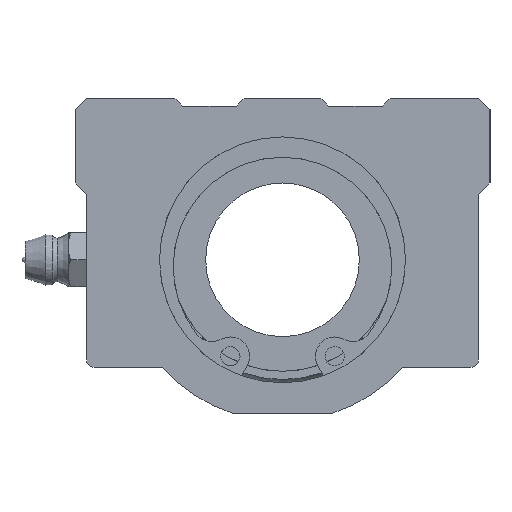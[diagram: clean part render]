
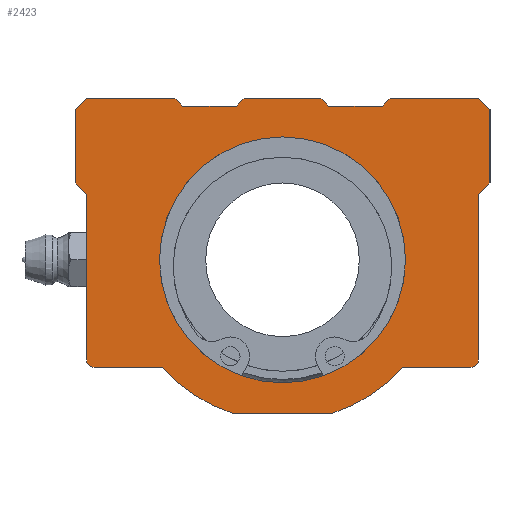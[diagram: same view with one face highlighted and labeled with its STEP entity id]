
A CAD part, left-side view. The second image highlights one B-rep face of the part: STEP entity #2423.
In plain terms, the highlighted planar face has unit normal (-1, 0, 0).
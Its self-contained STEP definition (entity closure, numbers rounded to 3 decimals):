
#1525=CARTESIAN_POINT('',(0.0,16.0,0.));
#1526=VERTEX_POINT('',#1525);
#1527=CARTESIAN_POINT('',(0.0,0.0,0.0));
#1528=DIRECTION('',(1.0,0.0,0.0));
#1529=DIRECTION('',(0.0,-1.0,0.0));
#1530=AXIS2_PLACEMENT_3D('',#1527,#1528,#1529);
#1531=CIRCLE('',#1530,16.0);
#1532=EDGE_CURVE('',#1526,#1526,#1531,.T.);
#1749=CARTESIAN_POINT('',(0.0,27.0,19.5));
#1750=VERTEX_POINT('',#1749);
#1765=CARTESIAN_POINT('',(0.0,27.0,10.));
#1766=VERTEX_POINT('',#1765);
#1773=CARTESIAN_POINT('',(0.0,27.0,10.));
#1774=DIRECTION('',(0.0,0.0,1.0));
#1775=VECTOR('',#1774,9.5);
#1776=LINE('',#1773,#1775);
#1777=EDGE_CURVE('',#1766,#1750,#1776,.T.);
#1787=CARTESIAN_POINT('',(0.0,25.5,-13.));
#1788=VERTEX_POINT('',#1787);
#1797=CARTESIAN_POINT('',(0.0,25.5,8.5));
#1798=VERTEX_POINT('',#1797);
#1799=CARTESIAN_POINT('',(0.0,25.5,-13.));
#1800=DIRECTION('',(0.0,0.0,1.0));
#1801=VECTOR('',#1800,21.5);
#1802=LINE('',#1799,#1801);
#1803=EDGE_CURVE('',#1788,#1798,#1802,.T.);
#1888=CARTESIAN_POINT('',(0.0,6.403,-20.));
#1889=VERTEX_POINT('',#1888);
#1896=CARTESIAN_POINT('',(0.0,15.652,-14.));
#1897=VERTEX_POINT('',#1896);
#1898=CARTESIAN_POINT('',(0.0,0.0,0.0));
#1899=DIRECTION('',(1.0,0.0,0.0));
#1900=DIRECTION('',(0.0,0.305,-0.952));
#1901=AXIS2_PLACEMENT_3D('',#1898,#1899,#1900);
#1902=CIRCLE('',#1901,21.0);
#1903=EDGE_CURVE('',#1889,#1897,#1902,.T.);
#1927=CARTESIAN_POINT('',(0.0,-6.403,-20.));
#1928=VERTEX_POINT('',#1927);
#1935=CARTESIAN_POINT('',(0.0,-6.403,-20.));
#1936=DIRECTION('',(0.0,1.0,0.0));
#1937=VECTOR('',#1936,12.806);
#1938=LINE('',#1935,#1937);
#1939=EDGE_CURVE('',#1928,#1889,#1938,.T.);
#1959=CARTESIAN_POINT('',(0.0,-15.652,-14.));
#1960=VERTEX_POINT('',#1959);
#1967=CARTESIAN_POINT('',(0.0,0.0,0.0));
#1968=DIRECTION('',(1.0,0.0,0.0));
#1969=DIRECTION('',(0.0,0.305,-0.952));
#1970=AXIS2_PLACEMENT_3D('',#1967,#1968,#1969);
#1971=CIRCLE('',#1970,21.0);
#1972=EDGE_CURVE('',#1960,#1928,#1971,.T.);
#1983=CARTESIAN_POINT('',(0.0,-24.5,-14.));
#1984=VERTEX_POINT('',#1983);
#1993=CARTESIAN_POINT('',(0.0,-24.5,-14.));
#1994=DIRECTION('',(0.0,1.0,0.0));
#1995=VECTOR('',#1994,8.848);
#1996=LINE('',#1993,#1995);
#1997=EDGE_CURVE('',#1984,#1960,#1996,.T.);
#2020=CARTESIAN_POINT('',(0.0,-27.0,19.5));
#2021=VERTEX_POINT('',#2020);
#2030=CARTESIAN_POINT('',(0.0,-27.0,10.));
#2031=VERTEX_POINT('',#2030);
#2032=CARTESIAN_POINT('',(0.0,-27.0,19.5));
#2033=DIRECTION('',(0.0,0.0,-1.0));
#2034=VECTOR('',#2033,9.5);
#2035=LINE('',#2032,#2034);
#2036=EDGE_CURVE('',#2021,#2031,#2035,.T.);
#2062=CARTESIAN_POINT('',(0.0,-25.5,21.));
#2063=VERTEX_POINT('',#2062);
#2078=CARTESIAN_POINT('',(0.0,-14.0,21.));
#2079=VERTEX_POINT('',#2078);
#2086=CARTESIAN_POINT('',(0.0,-14.0,21.));
#2087=DIRECTION('',(0.0,-1.0,0.0));
#2088=VECTOR('',#2087,11.5);
#2089=LINE('',#2086,#2088);
#2090=EDGE_CURVE('',#2079,#2063,#2089,.T.);
#2113=CARTESIAN_POINT('',(0.0,-25.5,21.));
#2114=DIRECTION('',(0.0,-0.707,-0.707));
#2115=VECTOR('',#2114,2.121);
#2116=LINE('',#2113,#2115);
#2117=EDGE_CURVE('',#2063,#2021,#2116,.T.);
#2128=CARTESIAN_POINT('',(0.0,25.5,21.));
#2129=VERTEX_POINT('',#2128);
#2138=CARTESIAN_POINT('',(0.0,14.0,21.));
#2139=VERTEX_POINT('',#2138);
#2140=CARTESIAN_POINT('',(0.0,25.5,21.));
#2141=DIRECTION('',(0.0,-1.0,0.0));
#2142=VECTOR('',#2141,11.5);
#2143=LINE('',#2140,#2142);
#2144=EDGE_CURVE('',#2129,#2139,#2143,.T.);
#2181=CARTESIAN_POINT('',(0.0,27.0,19.5));
#2182=DIRECTION('',(0.0,-0.707,0.707));
#2183=VECTOR('',#2182,2.121);
#2184=LINE('',#2181,#2183);
#2185=EDGE_CURVE('',#1750,#2129,#2184,.T.);
#2196=CARTESIAN_POINT('',(0.0,-13.,20.));
#2197=VERTEX_POINT('',#2196);
#2198=CARTESIAN_POINT('',(0.0,-13.,20.));
#2199=DIRECTION('',(0.0,-0.707,0.707));
#2200=VECTOR('',#2199,1.414);
#2201=LINE('',#2198,#2200);
#2202=EDGE_CURVE('',#2197,#2079,#2201,.T.);
#2227=CARTESIAN_POINT('',(0.0,13.,20.));
#2228=VERTEX_POINT('',#2227);
#2229=CARTESIAN_POINT('',(0.0,14.0,21.));
#2230=DIRECTION('',(0.0,-0.707,-0.707));
#2231=VECTOR('',#2230,1.414);
#2232=LINE('',#2229,#2231);
#2233=EDGE_CURVE('',#2139,#2228,#2232,.T.);
#2258=CARTESIAN_POINT('',(0.0,-25.5,8.5));
#2259=VERTEX_POINT('',#2258);
#2260=CARTESIAN_POINT('',(0.0,-27.0,10.));
#2261=DIRECTION('',(0.0,0.707,-0.707));
#2262=VECTOR('',#2261,2.121);
#2263=LINE('',#2260,#2262);
#2264=EDGE_CURVE('',#2031,#2259,#2263,.T.);
#2289=CARTESIAN_POINT('',(0.0,25.5,8.5));
#2290=DIRECTION('',(0.0,0.707,0.707));
#2291=VECTOR('',#2290,2.121);
#2292=LINE('',#2289,#2291);
#2293=EDGE_CURVE('',#1798,#1766,#2292,.T.);
#2313=CARTESIAN_POINT('',(0.0,-25.5,-13.));
#2314=VERTEX_POINT('',#2313);
#2328=CARTESIAN_POINT('',(0.0,-25.5,8.5));
#2329=DIRECTION('',(0.0,0.0,-1.0));
#2330=VECTOR('',#2329,21.5);
#2331=LINE('',#2328,#2330);
#2332=EDGE_CURVE('',#2259,#2314,#2331,.T.);
#2337=CARTESIAN_POINT('',(0.0,0.,2.194));
#2338=DIRECTION('',(1.0,0.0,0.0));
#2339=DIRECTION('',(0.0,0.0,-1.0));
#2340=AXIS2_PLACEMENT_3D('',#2337,#2338,#2339);
#2341=PLANE('',#2340);
#2342=CARTESIAN_POINT('',(0.0,24.5,-14.));
#2343=VERTEX_POINT('',#2342);
#2344=CARTESIAN_POINT('',(0.0,24.5,-13.));
#2345=DIRECTION('',(1.0,0.0,0.0));
#2346=DIRECTION('',(0.0,0.707,-0.707));
#2347=AXIS2_PLACEMENT_3D('',#2344,#2345,#2346);
#2348=CIRCLE('',#2347,1.);
#2349=EDGE_CURVE('',#2343,#1788,#2348,.T.);
#2350=ORIENTED_EDGE('',*,*,#2349,.F.);
#2351=CARTESIAN_POINT('',(0.0,15.652,-14.));
#2352=DIRECTION('',(0.0,1.0,0.0));
#2353=VECTOR('',#2352,8.848);
#2354=LINE('',#2351,#2353);
#2355=EDGE_CURVE('',#1897,#2343,#2354,.T.);
#2356=ORIENTED_EDGE('',*,*,#2355,.F.);
#2357=ORIENTED_EDGE('',*,*,#1903,.F.);
#2358=ORIENTED_EDGE('',*,*,#1939,.F.);
#2359=ORIENTED_EDGE('',*,*,#1972,.F.);
#2360=ORIENTED_EDGE('',*,*,#1997,.F.);
#2361=CARTESIAN_POINT('',(0.0,-24.5,-13.));
#2362=DIRECTION('',(1.0,0.0,0.0));
#2363=DIRECTION('',(0.0,-0.707,-0.707));
#2364=AXIS2_PLACEMENT_3D('',#2361,#2362,#2363);
#2365=CIRCLE('',#2364,1.);
#2366=EDGE_CURVE('',#2314,#1984,#2365,.T.);
#2367=ORIENTED_EDGE('',*,*,#2366,.F.);
#2368=ORIENTED_EDGE('',*,*,#2332,.F.);
#2369=ORIENTED_EDGE('',*,*,#2264,.F.);
#2370=ORIENTED_EDGE('',*,*,#2036,.F.);
#2371=ORIENTED_EDGE('',*,*,#2117,.F.);
#2372=ORIENTED_EDGE('',*,*,#2090,.F.);
#2373=ORIENTED_EDGE('',*,*,#2202,.F.);
#2374=CARTESIAN_POINT('',(0.0,-6.,20.));
#2375=VERTEX_POINT('',#2374);
#2376=CARTESIAN_POINT('',(0.0,-6.,20.));
#2377=DIRECTION('',(0.0,-1.0,0.0));
#2378=VECTOR('',#2377,7.);
#2379=LINE('',#2376,#2378);
#2380=EDGE_CURVE('',#2375,#2197,#2379,.T.);
#2381=ORIENTED_EDGE('',*,*,#2380,.F.);
#2382=CARTESIAN_POINT('',(0.0,-5.,21.));
#2383=VERTEX_POINT('',#2382);
#2384=CARTESIAN_POINT('',(0.0,-5.,21.));
#2385=DIRECTION('',(0.0,-0.707,-0.707));
#2386=VECTOR('',#2385,1.414);
#2387=LINE('',#2384,#2386);
#2388=EDGE_CURVE('',#2383,#2375,#2387,.T.);
#2389=ORIENTED_EDGE('',*,*,#2388,.F.);
#2390=CARTESIAN_POINT('',(0.0,5.,21.));
#2391=VERTEX_POINT('',#2390);
#2392=CARTESIAN_POINT('',(0.0,5.,21.));
#2393=DIRECTION('',(0.0,-1.0,0.0));
#2394=VECTOR('',#2393,10.0);
#2395=LINE('',#2392,#2394);
#2396=EDGE_CURVE('',#2391,#2383,#2395,.T.);
#2397=ORIENTED_EDGE('',*,*,#2396,.F.);
#2398=CARTESIAN_POINT('',(0.0,6.,20.));
#2399=VERTEX_POINT('',#2398);
#2400=CARTESIAN_POINT('',(0.0,6.,20.));
#2401=DIRECTION('',(0.0,-0.707,0.707));
#2402=VECTOR('',#2401,1.414);
#2403=LINE('',#2400,#2402);
#2404=EDGE_CURVE('',#2399,#2391,#2403,.T.);
#2405=ORIENTED_EDGE('',*,*,#2404,.F.);
#2406=CARTESIAN_POINT('',(0.0,13.,20.));
#2407=DIRECTION('',(0.0,-1.0,0.0));
#2408=VECTOR('',#2407,7.);
#2409=LINE('',#2406,#2408);
#2410=EDGE_CURVE('',#2228,#2399,#2409,.T.);
#2411=ORIENTED_EDGE('',*,*,#2410,.F.);
#2412=ORIENTED_EDGE('',*,*,#2233,.F.);
#2413=ORIENTED_EDGE('',*,*,#2144,.F.);
#2414=ORIENTED_EDGE('',*,*,#2185,.F.);
#2415=ORIENTED_EDGE('',*,*,#1777,.F.);
#2416=ORIENTED_EDGE('',*,*,#2293,.F.);
#2417=ORIENTED_EDGE('',*,*,#1803,.F.);
#2418=EDGE_LOOP('',(#2350,#2356,#2357,#2358,#2359,#2360,#2367,#2368,#2369,#2370,#2371,#2372,#2373,#2381,#2389,#2397,#2405,#2411,#2412,#2413,#2414,#2415,#2416,#2417));
#2419=FACE_OUTER_BOUND('',#2418,.T.);
#2420=ORIENTED_EDGE('',*,*,#1532,.T.);
#2421=EDGE_LOOP('',(#2420));
#2422=FACE_BOUND('',#2421,.T.);
#2423=ADVANCED_FACE('',(#2419,#2422),#2341,.F.);
